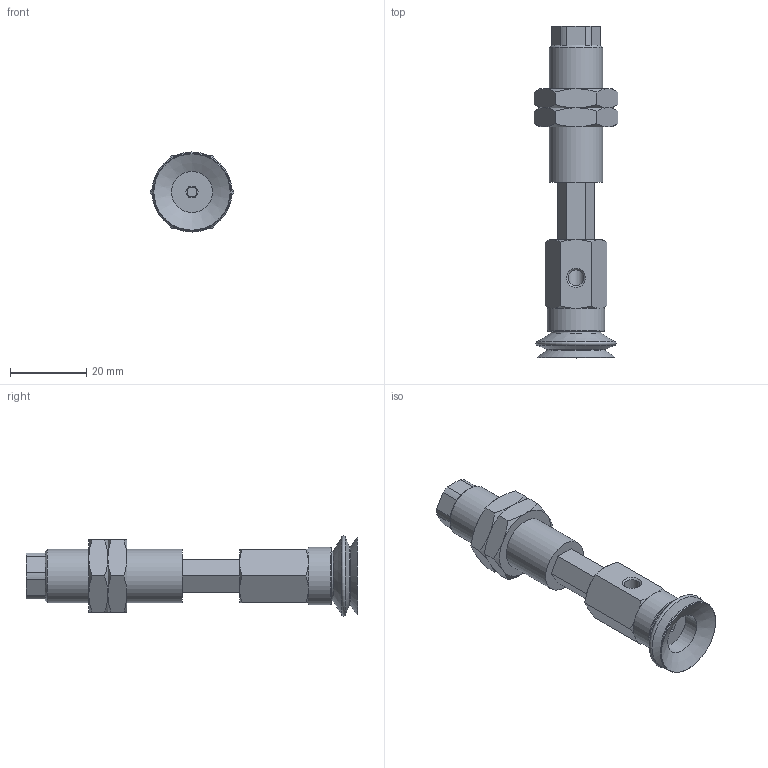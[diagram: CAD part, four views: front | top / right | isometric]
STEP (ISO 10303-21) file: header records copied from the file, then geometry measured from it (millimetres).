
FILE_DESCRIPTION(('STEP AP203'),'1');
FILE_NAME('.stp','2025-04-24T06:58:27',(' '),(' '),'Spatial InterOp 3D',' ',' ');
FILE_SCHEMA(('CONFIG_CONTROL_DESIGN'));
Length unit declared in the file: millimetre
Products named in the file (7): BNABPJYH-20-15-※; Adapter-20-NAPJ; CONNECTOR_H-20-15; NAPJH-20-15-NUT; NAPJTH-20-15-FBODY; NAPJTH-20-15-MBODY; BPJG-20-※
Assembly tree (7 placements, depth 2):
  BNABPJYH-20-15-※
    Adapter-20-NAPJ
    CONNECTOR_H-20-15
    NAPJH-20-15-NUT  x2
    NAPJTH-20-15-FBODY
    NAPJTH-20-15-MBODY
    BPJG-20-※
Bounding box: 21.94 x 87 x 21 mm (x, y, z)
Volume: 13212.4 mm3; surface area: 10611.2 mm2
Topology: 7 solids, 7 shells, 153 faces, 340 edges, 209 vertices
Faces by surface type: plane 72, cone 54, cylinder 20, torus 7
Full cylindrical faces by diameter (mm): 2.5 x1, 3 x1, 4.134 x3, 4.6 x1, 5 x2, 10.8 x1, 11 x1, 13.188 x2, 14 x1, 15 x1
Entity records: 3982 total; most frequent: CARTESIAN_POINT 928, DIRECTION 562, ORIENTED_EDGE 500, EDGE_CURVE 250, AXIS2_PLACEMENT_3D 226, EDGE_LOOP 184, VERTEX_POINT 174, FACE_OUTER_BOUND 150
